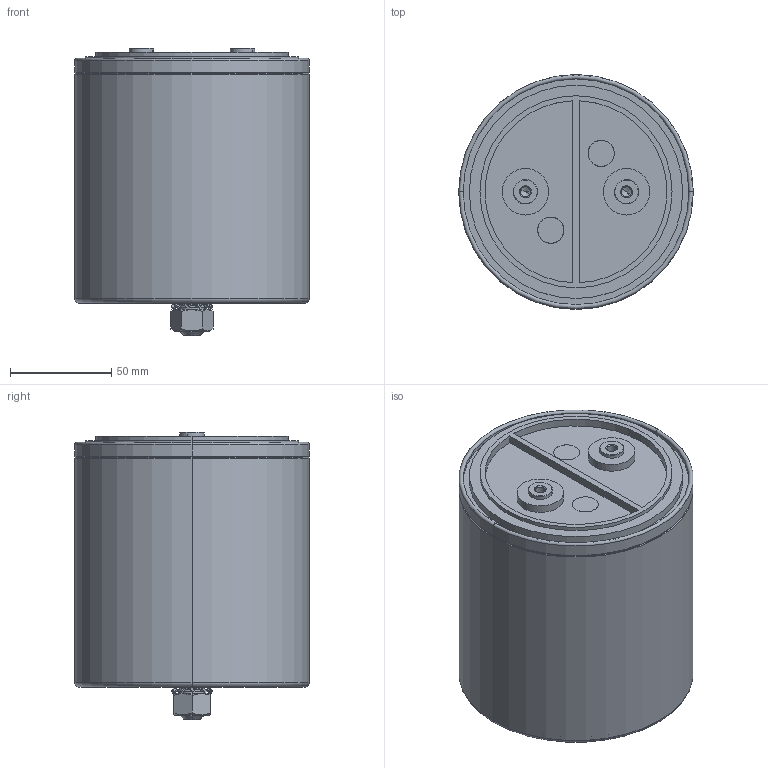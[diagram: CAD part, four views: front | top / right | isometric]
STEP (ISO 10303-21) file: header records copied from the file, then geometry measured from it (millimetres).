
FILE_DESCRIPTION (( 'STEP AP203' ), '1' );
FILE_NAME ('B25620Bx_160x120_126.STEP', '2021-07-01T03:53:28', ( '' ), ( '' ), 'SwSTEP 2.0', 'SolidWorks 2017', '' );
FILE_SCHEMA (( 'CONFIG_CONTROL_DESIGN' ));
Length unit declared in the file: millimetre
Products named in the file (1): B25620Bx_160x120_126
Bounding box: 116 x 116 x 142 mm (x, y, z)
Volume: 113523.9 mm3; surface area: 139917.9 mm2
Topology: 2 solids, 15 shells, 283 faces, 620 edges, 392 vertices
Faces by surface type: plane 113, cylinder 80, bspline 50, cone 22, torus 18
Entity records: 8809 total; most frequent: CARTESIAN_POINT 2696, ORIENTED_EDGE 1232, DIRECTION 1210, EDGE_CURVE 616, AXIS2_PLACEMENT_3D 456, VERTEX_POINT 392, EDGE_LOOP 314, VECTOR 298
